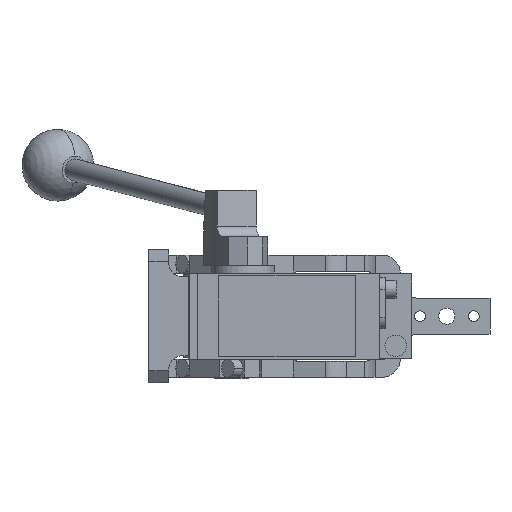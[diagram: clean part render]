
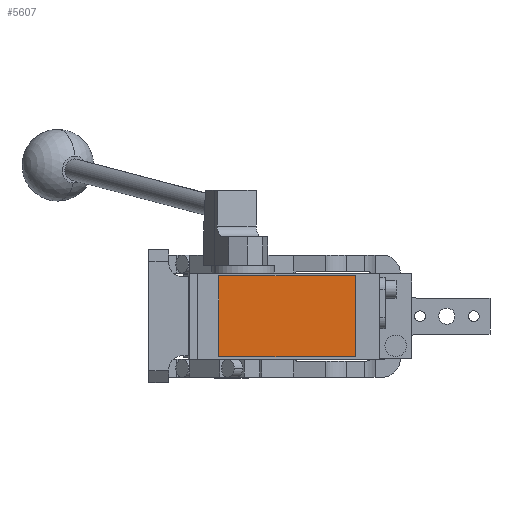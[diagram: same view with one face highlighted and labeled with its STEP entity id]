
A CAD part, front view. The second image highlights one B-rep face of the part: STEP entity #5607.
In plain terms, the highlighted planar face has unit normal (0, -1, 0).
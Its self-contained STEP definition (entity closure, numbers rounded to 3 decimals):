
#33 = EDGE_CURVE ( 'NONE', #10000, #10810, #13890, .T. ) ;
#510 = CARTESIAN_POINT ( 'NONE',  ( -7., -280.5, 22.5 ) ) ;
#677 = CARTESIAN_POINT ( 'NONE',  ( -7., -280.5, 22.5 ) ) ;
#1247 = EDGE_CURVE ( 'NONE', #10810, #15153, #3073, .T. ) ;
#1738 = VECTOR ( 'NONE', #4526, 1000. ) ;
#3053 = ORIENTED_EDGE ( 'NONE', *, *, #14131, .T. ) ;
#3073 = LINE ( 'NONE', #510, #9224 ) ;
#3602 = FACE_OUTER_BOUND ( 'NONE', #14656, .T. ) ;
#4526 = DIRECTION ( 'NONE',  ( 0., 0., -1. ) ) ;
#5208 = VECTOR ( 'NONE', #13983, 1000. ) ;
#5607 = ADVANCED_FACE ( 'NONE', ( #3602 ), #13549, .T. ) ;
#5609 = DIRECTION ( 'NONE',  ( 1., 0., 0. ) ) ;
#6054 = VERTEX_POINT ( 'NONE', #13864 ) ;
#6225 = ORIENTED_EDGE ( 'NONE', *, *, #33, .T. ) ;
#6654 = CARTESIAN_POINT ( 'NONE',  ( 69., -280.5, 22.5 ) ) ;
#7147 = LINE ( 'NONE', #14226, #1738 ) ;
#7291 = DIRECTION ( 'NONE',  ( 0., -1., 0. ) ) ;
#7381 = ORIENTED_EDGE ( 'NONE', *, *, #14809, .T. ) ;
#9207 = ORIENTED_EDGE ( 'NONE', *, *, #1247, .T. ) ;
#9224 = VECTOR ( 'NONE', #11785, 1000. ) ;
#9697 = LINE ( 'NONE', #14562, #10614 ) ;
#10000 = VERTEX_POINT ( 'NONE', #12630 ) ;
#10614 = VECTOR ( 'NONE', #5609, 1000. ) ;
#10810 = VERTEX_POINT ( 'NONE', #11102 ) ;
#11102 = CARTESIAN_POINT ( 'NONE',  ( 69., -280.5, 22.5 ) ) ;
#11785 = DIRECTION ( 'NONE',  ( -1., 0., 0. ) ) ;
#12153 = CARTESIAN_POINT ( 'NONE',  ( 0., -280.5, 0. ) ) ;
#12630 = CARTESIAN_POINT ( 'NONE',  ( 69., -280.5, -22.5 ) ) ;
#12686 = AXIS2_PLACEMENT_3D ( 'NONE', #12153, #7291, #14667 ) ;
#13549 = PLANE ( 'NONE',  #12686 ) ;
#13864 = CARTESIAN_POINT ( 'NONE',  ( -7., -280.5, -22.5 ) ) ;
#13890 = LINE ( 'NONE', #6654, #5208 ) ;
#13983 = DIRECTION ( 'NONE',  ( 0., 0., 1. ) ) ;
#14131 = EDGE_CURVE ( 'NONE', #15153, #6054, #7147, .T. ) ;
#14226 = CARTESIAN_POINT ( 'NONE',  ( -7., -280.5, 22.5 ) ) ;
#14562 = CARTESIAN_POINT ( 'NONE',  ( -7., -280.5, -22.5 ) ) ;
#14656 = EDGE_LOOP ( 'NONE', ( #3053, #7381, #6225, #9207 ) ) ;
#14667 = DIRECTION ( 'NONE',  ( 0., 0., -1. ) ) ;
#14809 = EDGE_CURVE ( 'NONE', #6054, #10000, #9697, .T. ) ;
#15153 = VERTEX_POINT ( 'NONE', #677 ) ;
